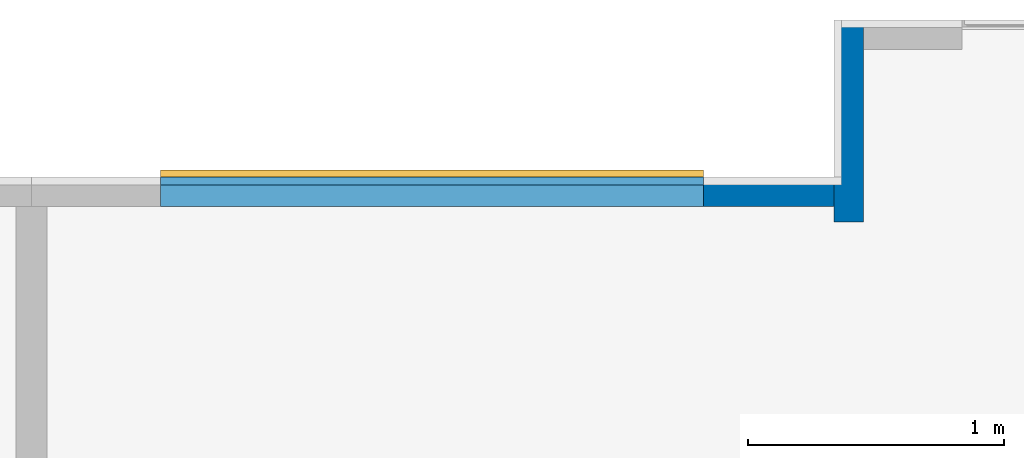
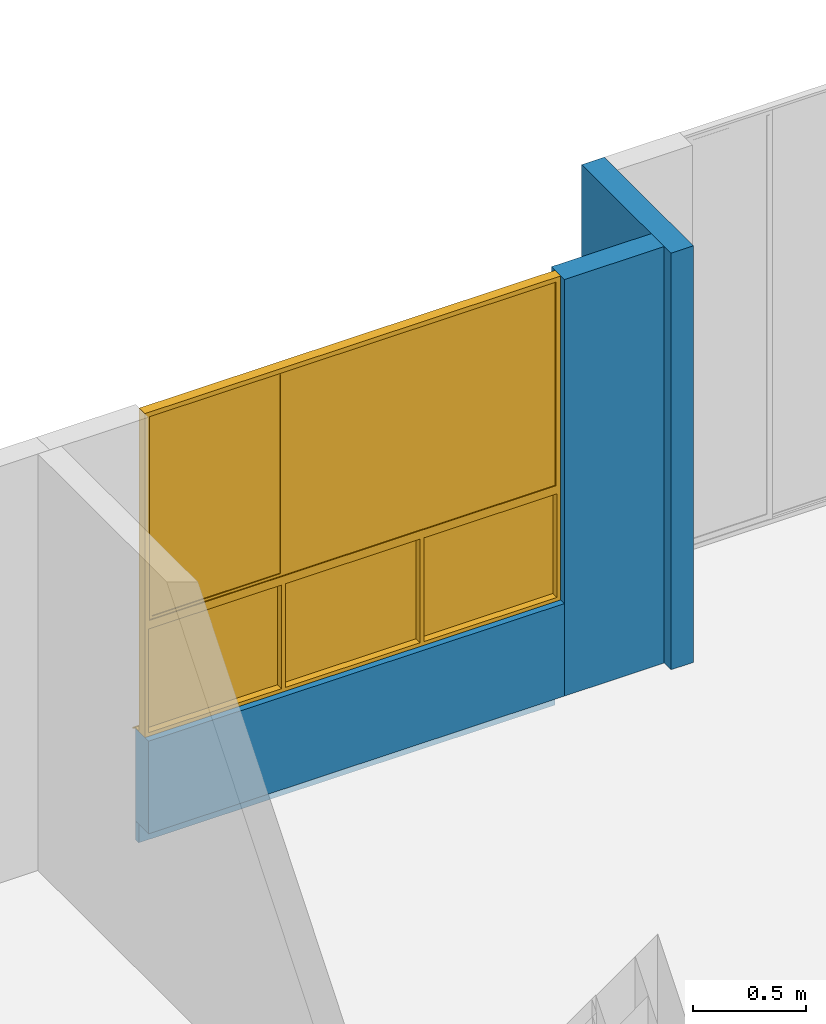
# One storey, part 23 of 47: 4 walls, 1 window, 1 opening.
"""IFC4 building model written with IfcOpenShell, lengths in metres."""

import ifcopenshell
import ifcopenshell.guid

model = None  # the IFC model being written
_history = None  # IfcOwnerHistory: only IFC2X3 demands one
_inside = {}  # id of a spatial element -> (the spatial element, [elements in it])
_under = {}  # id of a project, library or spatial element -> (it, [spatial elements below it])
_declared = {}  # id of a project -> (the project, [libraries it declares])
_typed = {}  # id of a type object -> (the type object, [elements of that type])
_made_of = {}  # id of a material, layer set ... -> (it, [elements and type objects made of it])


def new_model(schema):
    """Start an empty IFC model of exactly this schema.

    Asked for "IFC4X3", IfcOpenShell would pick the latest addendum, in which some entities
    have other attributes; the version numbers below select the first issue.
    IFC2X3 requires an IfcOwnerHistory on every rooted entity: one is made here for all.
    """
    global model, _history
    if schema == "IFC4X3":
        model = ifcopenshell.file(schema_version=(4, 3, 0, 0))
    else:
        model = ifcopenshell.file(schema=schema)
    _inside.clear()
    _under.clear()
    _declared.clear()
    _typed.clear()
    _made_of.clear()
    _history = None
    if model.schema == "IFC2X3":
        org = make("IfcOrganization", Name="unknown")
        user = make(
            "IfcPersonAndOrganization",
            ThePerson=make("IfcPerson", FamilyName="unknown"),
            TheOrganization=org,
        )
        app = make(
            "IfcApplication",
            ApplicationDeveloper=org,
            Version="unknown",
            ApplicationFullName="unknown",
            ApplicationIdentifier="unknown",
        )
        _history = make(
            "IfcOwnerHistory",
            OwningUser=user,
            OwningApplication=app,
            ChangeAction="ADDED",
            CreationDate=0,
        )
    return model


def make(cls, **values):
    """One entity of the class cls with the attributes given. An attribute that is None is left unset."""
    return model.create_entity(
        cls, **{name: value for name, value in values.items() if value is not None}
    )


def entity(cls, *values):
    """Any entity or typed value of the class cls, its attributes in the order of the schema. None: left unset."""
    e = model.create_entity(cls)
    for i, value in enumerate(values):
        if value is not None:
            e[i] = value
    return e


def rooted(cls, **values):
    """An entity with a GlobalId (a new one), such as an element, a storey or a relation."""
    return make(cls, GlobalId=ifcopenshell.guid.new(), OwnerHistory=_history, **values)


def si_unit(unit_type, name, prefix=None):
    """IfcSIUnit, for example si_unit("LENGTHUNIT", "METRE", prefix="MILLI")."""
    return make("IfcSIUnit", UnitType=unit_type, Prefix=prefix, Name=name)


def converted_unit(unit_type, name, factor, base, dimensions=None, offset=None):
    """IfcConversionBasedUnit, such as the inch: factor (a typed value) times the base unit."""
    return make(
        "IfcConversionBasedUnit"
        if offset is None
        else "IfcConversionBasedUnitWithOffset",
        ConversionOffset=offset,
        Dimensions=None
        if dimensions is None
        else entity("IfcDimensionalExponents", *dimensions),
        UnitType=unit_type,
        Name=name,
        ConversionFactor=make(
            "IfcMeasureWithUnit", ValueComponent=factor, UnitComponent=base
        ),
    )


def derived_unit(unit_type, elements):
    """IfcDerivedUnit: a product of units, each with its exponent."""
    return make(
        "IfcDerivedUnit",
        Elements=[
            make("IfcDerivedUnitElement", Unit=unit, Exponent=power)
            for unit, power in elements
        ],
        UnitType=unit_type,
    )


def assignment(units):
    """IfcUnitAssignment: the units of a project."""
    return None if units is None else make("IfcUnitAssignment", Units=units)


def point(xyz):
    """IfcCartesianPoint."""
    return None if xyz is None else make("IfcCartesianPoint", Coordinates=xyz)


def direction(xyz):
    """IfcDirection."""
    return None if xyz is None else make("IfcDirection", DirectionRatios=xyz)


def frame(location, z_axis=None, x_axis=None):
    """IfcAxis2Placement3D, a coordinate frame: its origin and axes. An axis left out is left unset."""
    return make(
        "IfcAxis2Placement3D",
        Location=point(location),
        Axis=direction(z_axis),
        RefDirection=direction(x_axis),
    )


def origin():
    """The frame at (0, 0, 0) with its axes left unset."""
    return frame((0.0, 0.0, 0.0))


def place(relative_to, where):
    """IfcLocalPlacement: puts the frame where relative to a parent placement (None: the world)."""
    return make(
        "IfcLocalPlacement", PlacementRelTo=relative_to, RelativePlacement=where
    )


def context(
    kind, dimensions, precision=None, world=None, true_north=None, identifier=None
):
    """IfcGeometricRepresentationContext, for example the 3D "Model" context."""
    return make(
        "IfcGeometricRepresentationContext",
        ContextIdentifier=identifier,
        ContextType=kind,
        CoordinateSpaceDimension=dimensions,
        Precision=precision,
        WorldCoordinateSystem=world,
        TrueNorth=true_north,
    )


def subcontext(parent, identifier, kind, view, scale=None):
    """IfcGeometricRepresentationSubContext, for example "Body" below "Model"."""
    return make(
        "IfcGeometricRepresentationSubContext",
        ContextIdentifier=identifier,
        ContextType=kind,
        ParentContext=parent,
        TargetScale=scale,
        TargetView=view,
    )


def project(units=None, contexts=None):
    """IfcProject with its units and contexts."""
    return rooted(
        "IfcProject",
        Name="project",
        RepresentationContexts=contexts,
        UnitsInContext=assignment(units),
    )


def spatial(cls, under=None, at=None, **own):
    """A site, building, storey or space (cls), placed at a placement, below another one or the project."""
    s = rooted(cls, ObjectPlacement=at, **own)
    if under is not None:
        _under.setdefault(under.id(), (under, []))[1].append(s)
    return s


def point_list(points):
    """IfcCartesianPointList2D or 3D."""
    cls = (
        "IfcCartesianPointList2D" if len(points[0]) == 2 else "IfcCartesianPointList3D"
    )
    return make(cls, CoordList=points)


def indexed_curve(points, segments=None, self_intersect=None):
    """IfcIndexedPolyCurve: lines and arcs through numbered points (the first is 1)."""
    return make(
        "IfcIndexedPolyCurve",
        Points=point_list(points),
        Segments=segments,
        SelfIntersect=self_intersect,
    )


def outline(outer, holes=None, kind="AREA"):
    """IfcArbitraryClosedProfileDef: a profile drawn as a closed curve; with holes, ...WithVoids."""
    if holes is None:
        return make("IfcArbitraryClosedProfileDef", ProfileType=kind, OuterCurve=outer)
    return make(
        "IfcArbitraryProfileDefWithVoids",
        ProfileType=kind,
        OuterCurve=outer,
        InnerCurves=holes,
    )


def extrude(swept, where, along, depth):
    """IfcExtrudedAreaSolid: the profile swept, set in the frame where, extruded along a direction by depth."""
    return make(
        "IfcExtrudedAreaSolid",
        SweptArea=swept,
        Position=where,
        ExtrudedDirection=direction(along),
        Depth=depth,
    )


def polygons(points, faces, closed=None, point_numbers=None):
    """IfcPolygonalFaceSet: a face is its outer loop, then its inner loops; points numbered from 1."""
    made = []
    for loops in faces:
        if len(loops) == 1:
            made.append(make("IfcIndexedPolygonalFace", CoordIndex=loops[0]))
        else:
            made.append(
                make(
                    "IfcIndexedPolygonalFaceWithVoids",
                    CoordIndex=loops[0],
                    InnerCoordIndices=loops[1:],
                )
            )
    return make(
        "IfcPolygonalFaceSet",
        Coordinates=point_list(points),
        Closed=closed,
        Faces=made,
        PnIndex=point_numbers,
    )


def shape(context_of_items, identifier, shape_type, items):
    """IfcShapeRepresentation: the items that make up one representation, for example the "Body"."""
    return make(
        "IfcShapeRepresentation",
        ContextOfItems=context_of_items,
        RepresentationIdentifier=identifier,
        RepresentationType=shape_type,
        Items=items,
    )


def source(mapping_origin, context_of_items, identifier, shape_type, items):
    """IfcRepresentationMap: a shape defined once, which mapped items show again and again."""
    return make(
        "IfcRepresentationMap",
        MappingOrigin=mapping_origin,
        MappedRepresentation=shape(context_of_items, identifier, shape_type, items),
    )


def transform(
    local_origin,
    x_axis=None,
    y_axis=None,
    z_axis=None,
    scale=None,
    scale2=None,
    scale3=None,
    uniform=True,
):
    """IfcCartesianTransformationOperator3D, or its non-uniform kind. x_axis, y_axis, z_axis: its Axis1, 2, 3."""
    if uniform:
        return make(
            "IfcCartesianTransformationOperator3D",
            Axis1=direction(x_axis),
            Axis2=direction(y_axis),
            LocalOrigin=point(local_origin),
            Scale=scale,
            Axis3=direction(z_axis),
        )
    return make(
        "IfcCartesianTransformationOperator3DnonUniform",
        Axis1=direction(x_axis),
        Axis2=direction(y_axis),
        LocalOrigin=point(local_origin),
        Scale=scale,
        Axis3=direction(z_axis),
        Scale2=scale2,
        Scale3=scale3,
    )


def mapped(mapping_source, mapping_target):
    """IfcMappedItem: shows the shape of a source again, moved by a transform."""
    return make(
        "IfcMappedItem", MappingSource=mapping_source, MappingTarget=mapping_target
    )


def material(Name=None, Category=None):
    """IfcMaterial."""
    return make("IfcMaterial", Name=Name, Category=Category)


def constituent(of_material, Name=None, Category=None, fraction=None):
    """IfcMaterialConstituent: one of the materials an element consists of."""
    return make(
        "IfcMaterialConstituent",
        Name=Name,
        Material=of_material,
        Fraction=fraction,
        Category=Category,
    )


def constituent_set(constituents=None, Name=None):
    """IfcMaterialConstituentSet."""
    return make(
        "IfcMaterialConstituentSet", Name=Name, MaterialConstituents=constituents
    )


def made_of(thing, what):
    """Note that an element or type object is made of a material, layer set ...; save() writes the relation."""
    if what is not None:
        _made_of.setdefault(what.id(), (what, []))[1].append(thing)
    return thing


def type_object(cls, material=None, **own):
    """A type object (cls), such as IfcWallType, which elements share."""
    return made_of(rooted(cls, **own), material)


def type_shapes(of_type, sources):
    """Give a type object the sources (RepresentationMaps) that its elements show as mapped items."""
    of_type.RepresentationMaps = sources


def element(
    cls,
    number,
    at=None,
    inside=None,
    cuts=None,
    type_object=None,
    material=None,
    context=None,
    identifier="Body",
    shape_type=None,
    held_by="IfcProductDefinitionShape",
    body=None,
    shapes=None,
    **own,
):
    """One element of the class cls, such as IfcWall. Its Tag is "e" and its number.

    at: its placement. inside: the storey or other place that contains it. cuts: it is an
    opening in that element (IfcRelVoidsElement). A single representation is given by context,
    identifier, shape_type and body (its items); several are given by shapes. held_by: the class
    of the entity that holds the representations. save() writes the other relations.
    """
    e = rooted(cls, Tag="e%d" % number, ObjectPlacement=at, **own)
    if body is not None:
        shapes = [shape(context, identifier, shape_type, body)]
    if shapes is not None:
        e.Representation = make(held_by, Representations=shapes)
    if inside is not None:
        _inside.setdefault(inside.id(), (inside, []))[1].append(e)
    if cuts is not None:
        rooted(
            "IfcRelVoidsElement", RelatingBuildingElement=cuts, RelatedOpeningElement=e
        )
    if type_object is not None:
        _typed.setdefault(type_object.id(), (type_object, []))[1].append(e)
    return made_of(e, material)


def fill(opening, filler):
    """IfcRelFillsElement: the door or window that sits in an opening."""
    return rooted(
        "IfcRelFillsElement",
        RelatingOpeningElement=opening,
        RelatedBuildingElement=filler,
    )


def aggregate(whole, parts):
    """IfcRelAggregates: a whole, such as a stair, and the parts it consists of."""
    return rooted("IfcRelAggregates", RelatingObject=whole, RelatedObjects=parts)


def save(model, path):
    """Write the relations noted so far, then the file.

    IfcRelAggregates (storeys below a building ...), IfcRelContainedInSpatialStructure (elements
    in a storey), IfcRelDefinesByType, IfcRelAssociatesMaterial and IfcRelDeclares: one each for
    every whole, place, type object, material and project.
    """
    for whole, parts in _under.values():
        aggregate(whole, parts)
    for where, things in _inside.values():
        rooted(
            "IfcRelContainedInSpatialStructure",
            RelatedElements=things,
            RelatingStructure=where,
        )
    for kind, things in _typed.values():
        rooted("IfcRelDefinesByType", RelatedObjects=things, RelatingType=kind)
    for what, things in _made_of.values():
        rooted("IfcRelAssociatesMaterial", RelatedObjects=things, RelatingMaterial=what)
    for by, libraries in _declared.values():
        rooted("IfcRelDeclares", RelatingContext=by, RelatedDefinitions=libraries)
    model.write(path)


model = new_model("IFC4")

# Units and contexts
model_context = context("Model", 3, precision=1e-05, world=origin(), true_north=direction((6.123031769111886e-17, 1.0)))
body_context = subcontext(model_context, "Body", "Model", "MODEL_VIEW")
ifc_project = project(units=[si_unit("LENGTHUNIT", "METRE"), si_unit("AREAUNIT", "SQUARE_METRE"), si_unit("VOLUMEUNIT", "CUBIC_METRE"), converted_unit("PLANEANGLEUNIT", "DEGREE", entity("IfcRatioMeasure", 0.017453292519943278), si_unit("PLANEANGLEUNIT", "RADIAN"), dimensions=[0, 0, 0, 0, 0, 0, 0]), si_unit("MASSUNIT", "GRAM", prefix="KILO"), derived_unit("MASSDENSITYUNIT", [(si_unit("MASSUNIT", "GRAM", prefix="KILO"), 1), (si_unit("LENGTHUNIT", "METRE"), -3)]), derived_unit("IONCONCENTRATIONUNIT", [(si_unit("MASSUNIT", "GRAM", prefix="KILO"), 1), (si_unit("LENGTHUNIT", "METRE"), -3)]), derived_unit("MOMENTOFINERTIAUNIT", [(si_unit("LENGTHUNIT", "METRE"), 4)]), si_unit("TIMEUNIT", "SECOND"), si_unit("FREQUENCYUNIT", "HERTZ"), si_unit("THERMODYNAMICTEMPERATUREUNIT", "DEGREE_CELSIUS"), derived_unit("THERMALTRANSMITTANCEUNIT", [(si_unit("MASSUNIT", "GRAM", prefix="KILO"), 1), (si_unit("THERMODYNAMICTEMPERATUREUNIT", "KELVIN"), -1), (si_unit("TIMEUNIT", "SECOND"), -3)]), derived_unit("THERMALCONDUCTANCEUNIT", [(si_unit("MASSUNIT", "GRAM", prefix="KILO"), 1), (si_unit("THERMODYNAMICTEMPERATUREUNIT", "KELVIN"), -1), (si_unit("TIMEUNIT", "SECOND"), -3), (si_unit("LENGTHUNIT", "METRE"), 1)]), derived_unit("VOLUMETRICFLOWRATEUNIT", [(si_unit("LENGTHUNIT", "METRE"), 3), (si_unit("TIMEUNIT", "SECOND"), -1)]), derived_unit("MASSFLOWRATEUNIT", [(si_unit("MASSUNIT", "GRAM", prefix="KILO"), 1), (si_unit("TIMEUNIT", "SECOND"), -1)]), derived_unit("ROTATIONALFREQUENCYUNIT", [(si_unit("TIMEUNIT", "SECOND"), -1)]), si_unit("ELECTRICCURRENTUNIT", "AMPERE"), si_unit("ELECTRICVOLTAGEUNIT", "VOLT"), si_unit("POWERUNIT", "WATT"), si_unit("FORCEUNIT", "NEWTON", prefix="KILO"), si_unit("ILLUMINANCEUNIT", "LUX"), si_unit("LUMINOUSFLUXUNIT", "LUMEN"), si_unit("LUMINOUSINTENSITYUNIT", "CANDELA"), derived_unit("USERDEFINED", [(si_unit("MASSUNIT", "GRAM", prefix="KILO"), -1), (si_unit("LENGTHUNIT", "METRE"), -2), (si_unit("TIMEUNIT", "SECOND"), 3), (si_unit("LUMINOUSFLUXUNIT", "LUMEN"), 1)]), derived_unit("USERDEFINED", [(si_unit("MASSUNIT", "GRAM", prefix="KILO"), 1), (si_unit("TIMEUNIT", "SECOND"), -3), (si_unit("LENGTHUNIT", "METRE"), 3), (si_unit("ELECTRICCURRENTUNIT", "AMPERE"), -2)]), derived_unit("SOUNDPOWERUNIT", [(si_unit("MASSUNIT", "GRAM", prefix="KILO"), 1), (si_unit("TIMEUNIT", "SECOND"), -3), (si_unit("LENGTHUNIT", "METRE"), 2)]), derived_unit("SOUNDPRESSUREUNIT", [(si_unit("MASSUNIT", "GRAM", prefix="KILO"), 1), (si_unit("LENGTHUNIT", "METRE"), -1), (si_unit("TIMEUNIT", "SECOND"), -2)]), derived_unit("LINEARVELOCITYUNIT", [(si_unit("LENGTHUNIT", "METRE"), 1), (si_unit("TIMEUNIT", "SECOND"), -1)]), si_unit("PRESSUREUNIT", "PASCAL"), derived_unit("USERDEFINED", [(si_unit("MASSUNIT", "GRAM", prefix="KILO"), 1), (si_unit("LENGTHUNIT", "METRE"), -2), (si_unit("TIMEUNIT", "SECOND"), -2)]), derived_unit("LINEARFORCEUNIT", [(si_unit("MASSUNIT", "GRAM", prefix="KILO"), 1), (si_unit("TIMEUNIT", "SECOND"), -2)]), derived_unit("PLANARFORCEUNIT", [(si_unit("MASSUNIT", "GRAM", prefix="KILO"), 1), (si_unit("LENGTHUNIT", "METRE"), -1), (si_unit("TIMEUNIT", "SECOND"), -2)]), derived_unit("SPECIFICHEATCAPACITYUNIT", [(si_unit("THERMODYNAMICTEMPERATUREUNIT", "KELVIN"), -1), (si_unit("LENGTHUNIT", "METRE"), 2), (si_unit("TIMEUNIT", "SECOND"), -2)]), derived_unit("HEATINGVALUEUNIT", [(si_unit("LENGTHUNIT", "METRE"), 2), (si_unit("TIMEUNIT", "SECOND"), -2)]), derived_unit("VAPORPERMEABILITYUNIT", [(si_unit("LENGTHUNIT", "METRE"), -1), (si_unit("TIMEUNIT", "SECOND"), 1)]), derived_unit("DYNAMICVISCOSITYUNIT", [(si_unit("MASSUNIT", "GRAM", prefix="KILO"), 1), (si_unit("TIMEUNIT", "SECOND"), -1), (si_unit("LENGTHUNIT", "METRE"), -1)]), derived_unit("THERMALEXPANSIONCOEFFICIENTUNIT", [(si_unit("THERMODYNAMICTEMPERATUREUNIT", "KELVIN"), -1)]), derived_unit("MODULUSOFELASTICITYUNIT", [(si_unit("MASSUNIT", "GRAM", prefix="KILO"), 1), (si_unit("LENGTHUNIT", "METRE"), -1), (si_unit("TIMEUNIT", "SECOND"), -2)]), derived_unit("ISOTHERMALMOISTURECAPACITYUNIT", [(si_unit("LENGTHUNIT", "METRE"), 3), (si_unit("MASSUNIT", "GRAM", prefix="KILO"), -1)]), derived_unit("MOISTUREDIFFUSIVITYUNIT", [(si_unit("TIMEUNIT", "SECOND"), -1), (si_unit("LENGTHUNIT", "METRE"), 2)])], contexts=[model_context])

# Site, building, storey
site_placement = place(None, origin())
site = spatial("IfcSite", under=ifc_project, at=site_placement, Name="Default", CompositionType="ELEMENT")
building_placement = place(site_placement, origin())
building = spatial("IfcBuilding", under=site, at=building_placement, CompositionType="ELEMENT")
storey_placement = place(building_placement, frame((0.0, 0.0, 11.750000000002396)))
storey = spatial("IfcBuildingStorey", under=building, at=storey_placement, Name="Nivel 6", CompositionType="ELEMENT", Elevation=11.750000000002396)

# Wall
ifc_material_1 = material(Name="Ladrillo claro (Aire)", Category="Materials")
wall_type_1 = type_object("IfcWallType", Name="Basic Wall:B2010 - 0.115m - Muro exterior en mampostería - Ladrillo", PredefinedType="STANDARD")
wall_1_placement = place(storey_placement, frame((12.520000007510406, 0.019999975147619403, 0.0), z_axis=(0.0, 0.0, 1.0), x_axis=(0.0, -1.0, 0.0)))
element("IfcWall", 1, at=wall_1_placement, inside=storey, type_object=wall_type_1, material=ifc_material_1, Name="Basic Wall:B2010 - 0.115m - Muro exterior en mampostería - Ladrillo", ObjectType="Basic Wall:B2010 - 0.115m - Muro exterior en mampostería - Ladrillo", PredefinedType="NOTDEFINED", context=body_context, shape_type="SweptSolid", body=[
    extrude(outline(indexed_curve([(0.7899180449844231, 0.057500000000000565), (1.1341863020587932e-18, 0.057499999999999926), (-1.1341863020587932e-18, -0.057499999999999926), (0.7899180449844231, -0.05749999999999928), (0.7899180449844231, 0.057500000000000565)], self_intersect=False)), origin(), (0.0, 0.0, 1.0), 2.2500000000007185),
])

# Wall, opening, window
wall_2_placement = place(storey_placement, frame((11.952500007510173, -0.6525000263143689, 0.0), z_axis=(0.0, 0.0, 1.0), x_axis=(-1.0, 0.0, 0.0)))
wall_2 = element("IfcWall", 2, at=wall_2_placement, inside=storey, type_object=wall_type_1, material=ifc_material_1, Name="Basic Wall:B2010 - 0.115m - Muro exterior en mampostería - Ladrillo", ObjectType="Basic Wall:B2010 - 0.115m - Muro exterior en mampostería - Ladrillo", PredefinedType="NOTDEFINED", context=body_context, shape_type="Tessellation", body=[
    polygons([(8.702369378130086e-16, -0.057499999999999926, -2.1657342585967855e-15), (2.1249999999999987, -0.05749999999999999, -2.1657342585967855e-15), (2.1249999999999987, -0.05749999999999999, 0.5000000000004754), (8.702369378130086e-16, -0.057499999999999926, 0.5000000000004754), (2.1249999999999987, 0.05750000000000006, -2.1657342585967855e-15), (1.1112318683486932e-15, 0.05750000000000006, -2.1657342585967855e-15), (1.1112318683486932e-15, 0.05750000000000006, 0.5000000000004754), (2.1249999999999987, 0.05750000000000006, 0.5000000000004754)], [[[1, 2, 3, 4]], [[5, 6, 7, 8]], [[2, 1, 6, 5]], [[2, 5, 8, 3]], [[6, 1, 4, 7]], [[4, 3, 8, 7]]], closed=True),
])
opening_placement = place(wall_2_placement, frame((2.125000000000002, 0.057499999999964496, 0.5000000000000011)))
opening = element("IfcOpeningElement", 3, at=opening_placement, cuts=wall_2, Name="B2020 - 6c Ventana corrediza - Aluminio + Vidrio:B2020 -2.13m x 1.750m - Ventana corrediza 2C - Aluminio + Vidrio:1", PredefinedType="OPENING", context=body_context, shape_type="SweptSolid", body=[
    extrude(outline(indexed_curve([(0.0, -6.998217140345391e-33), (1.7500000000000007, -6.998217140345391e-33), (1.7499999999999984, 2.125), (0.0, 2.125), (0.0, -6.998217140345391e-33)], self_intersect=False)), frame((0.0, 0.0, 0.0), z_axis=(0.0, -1.0, 0.0), x_axis=(0.0, 0.0, 1.0)), (0.0, 0.0, 1.0), 0.115),
])
ifc_material_2 = material(Name="Aluminio", Category="Materials")
ifc_constituent_1 = constituent(ifc_material_2, Name="Aluminio", Category="Materials")
ifc_material_3 = material(Name="Vidrio", Category="Materials")
ifc_constituent_2 = constituent(ifc_material_3, Name="Vidrio", Category="Materials")
ifc_material_4 = material(Name="Alfajía en aluminio", Category="Materials")
ifc_constituent_3 = constituent(ifc_material_4, Name="Alfajía en aluminio", Category="Materials")
ifc_constituent_set_1 = constituent_set(constituents=[ifc_constituent_1, ifc_constituent_2, ifc_constituent_3])
ifc_constituent_4 = constituent(ifc_material_2, Name="Aluminio", Category="Materials")
ifc_constituent_5 = constituent(ifc_material_3, Name="Vidrio", Category="Materials")
ifc_constituent_6 = constituent(ifc_material_4, Name="Alfajía en aluminio", Category="Materials")
ifc_constituent_set_2 = constituent_set(constituents=[ifc_constituent_4, ifc_constituent_5, ifc_constituent_6])
window_type = type_object("IfcWindowType", Name="B2020 - 6c Ventana corrediza - Aluminio + Vidrio:B2020 -2.13m x 1.750m - Ventana corrediza 2C - Aluminio + Vidrio", PartitioningType="NOTDEFINED", PredefinedType="WINDOW", material=ifc_constituent_set_2)
shared_shape = source(origin(), body_context, "Body", "Tessellation", [
    polygons([(0.024999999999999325, 0.03749999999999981, 1.7249999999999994), (0.025000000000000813, 0.032499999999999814, 1.7249999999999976), (0.025000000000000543, 0.032499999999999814, 0.6249999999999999), (0.024999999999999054, 0.03749999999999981, 0.6249999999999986), (2.1249999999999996, 0.03249999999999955, 0.5999999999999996), (2.1249999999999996, 0.03249999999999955, 1.749999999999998), (5.414335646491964e-16, 0.032499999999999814, 1.749999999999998), (2.707167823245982e-16, 0.032499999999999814, 0.5999999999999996), (2.099999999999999, 0.03249999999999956, 0.6249999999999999), (2.099999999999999, 0.032499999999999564, 1.7249999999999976), (2.1000000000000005, 0.03749999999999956, 0.6249999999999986), (2.1000000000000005, 0.03749999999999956, 1.7249999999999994), (2.1050000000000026, 0.03749999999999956, 0.6199999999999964), (0.01999999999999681, 0.03749999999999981, 0.6199999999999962), (0.01999999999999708, 0.03749999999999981, 1.7300000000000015), (2.1050000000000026, 0.03749999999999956, 1.7300000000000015), (0.01999999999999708, 0.05499999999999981, 1.7300000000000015), (0.01999999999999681, 0.05499999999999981, 0.6199999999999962), (2.1050000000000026, 0.05499999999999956, 0.6199999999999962), (2.1050000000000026, 0.05499999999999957, 1.7300000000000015), (2.099999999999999, 0.05499999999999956, 0.6249999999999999), (0.025000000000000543, 0.05499999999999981, 0.6249999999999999), (0.025000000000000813, 0.05499999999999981, 1.7249999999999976), (2.099999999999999, 0.05499999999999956, 1.7249999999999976), (0.025000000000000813, 0.05999999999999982, 1.7249999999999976), (0.025000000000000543, 0.05999999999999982, 0.6249999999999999), (2.099999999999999, 0.059999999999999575, 0.6249999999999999), (2.099999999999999, 0.059999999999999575, 1.7249999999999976), (2.119999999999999, 0.05999999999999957, 0.6049999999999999), (0.005000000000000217, 0.05999999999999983, 0.6049999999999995), (0.0050000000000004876, 0.05999999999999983, 1.744999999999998), (2.119999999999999, 0.05999999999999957, 1.744999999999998), (0.0050000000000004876, 0.07749999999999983, 1.744999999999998), (0.005000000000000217, 0.07749999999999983, 0.6049999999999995), (2.119999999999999, 0.07749999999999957, 0.6049999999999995), (2.119999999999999, 0.07749999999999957, 1.744999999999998), (2.099999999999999, 0.07749999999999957, 0.6249999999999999), (0.025000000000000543, 0.07749999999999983, 0.6249999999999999), (0.025000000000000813, 0.07749999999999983, 1.7249999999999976), (2.099999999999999, 0.07749999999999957, 1.7249999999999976), (0.025000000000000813, 0.08249999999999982, 1.7249999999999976), (0.025000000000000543, 0.08249999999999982, 0.6249999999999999), (2.099999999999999, 0.08249999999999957, 0.6249999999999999), (2.099999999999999, 0.08249999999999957, 1.7249999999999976), (2.1249999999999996, 0.08249999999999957, 0.5999999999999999), (2.707167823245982e-16, 0.08249999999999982, 0.5999999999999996), (5.414335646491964e-16, 0.08249999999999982, 1.749999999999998), (2.1249999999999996, 0.08249999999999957, 1.749999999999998)], [[[1, 2, 3, 4]], [[5, 6, 7, 8], [9, 3, 2, 10]], [[4, 3, 9, 11]], [[13, 14, 15, 16], [11, 12, 1, 4]], [[17, 15, 14, 18]], [[18, 14, 13, 19]], [[19, 20, 17, 18], [21, 22, 23, 24]], [[25, 23, 22, 26]], [[26, 22, 21, 27]], [[29, 30, 31, 32], [27, 28, 25, 26]], [[33, 31, 30, 34]], [[34, 30, 29, 35]], [[35, 36, 33, 34], [37, 38, 39, 40]], [[41, 39, 38, 42]], [[42, 38, 37, 43]], [[45, 46, 47, 48], [43, 44, 41, 42]], [[7, 47, 46, 8]], [[8, 46, 45, 5]], [[11, 9, 10, 12]], [[19, 13, 16, 20]], [[27, 21, 24, 28]], [[35, 29, 32, 36]], [[43, 37, 40, 44]], [[5, 45, 48, 6]], [[12, 10, 2, 1]], [[20, 16, 15, 17]], [[28, 24, 23, 25]], [[36, 32, 31, 33]], [[44, 40, 39, 41]], [[6, 48, 47, 7]]], closed=True),
    polygons([(1.4266666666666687, 0.08249999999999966, 0.6249999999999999), (1.4266666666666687, 0.05999999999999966, 0.6249999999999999), (1.406666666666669, 0.05999999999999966, 0.6249999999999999), (1.406666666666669, 0.08249999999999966, 0.6249999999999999), (1.4266666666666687, 0.08249999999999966, 1.7249999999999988), (1.4266666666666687, 0.05999999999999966, 1.7249999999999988), (1.406666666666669, 0.05999999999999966, 1.7249999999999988), (1.406666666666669, 0.08249999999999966, 1.7249999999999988)], [[[1, 2, 3, 4]], [[5, 6, 2, 1]], [[6, 7, 3, 2]], [[7, 8, 4, 3]], [[8, 5, 1, 4]], [[5, 8, 7, 6]]], closed=True),
    polygons([(0.7058333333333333, 0.06674999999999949, 1.7299999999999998), (0.7058333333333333, 0.06674999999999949, 0.6174999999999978), (2.099999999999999, 0.06674999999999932, 0.6174999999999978), (2.099999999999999, 0.06674999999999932, 1.7299999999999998), (0.7058333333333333, 0.0707499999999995, 1.7299999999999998), (0.7058333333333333, 0.0707499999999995, 0.6174999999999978), (2.099999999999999, 0.07074999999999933, 0.6174999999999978), (2.099999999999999, 0.07074999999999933, 1.7299999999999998)], [[[1, 2, 3, 4]], [[2, 1, 5, 6]], [[3, 2, 6, 7]], [[4, 3, 7, 8]], [[5, 8, 7, 6]], [[1, 4, 8, 5]]], closed=True),
    polygons([(0.7058333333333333, 0.07074999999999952, 0.6225000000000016), (0.7058333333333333, 0.06674999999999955, 0.6225000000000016), (2.095000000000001, 0.06674999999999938, 0.6225000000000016), (2.095000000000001, 0.07074999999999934, 0.6225000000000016), (2.0950000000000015, 0.06674999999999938, 1.730000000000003), (2.0950000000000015, 0.07074999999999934, 1.730000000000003), (0.7058333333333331, 0.06674999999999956, 1.730000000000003), (2.0800000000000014, 0.06674999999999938, 1.7150000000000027), (0.7208333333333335, 0.06674999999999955, 1.7150000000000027), (0.7208333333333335, 0.06674999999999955, 0.637500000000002), (2.080000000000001, 0.06674999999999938, 0.637500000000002), (2.080000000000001, 0.07074999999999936, 0.6375000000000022), (0.7208333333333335, 0.07074999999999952, 0.637500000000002), (0.7208333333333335, 0.07074999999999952, 1.7150000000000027), (2.0800000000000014, 0.07074999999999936, 1.7150000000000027), (0.7058333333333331, 0.07074999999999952, 1.730000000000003), (0.7208333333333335, 0.07549999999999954, 0.637500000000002), (2.080000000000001, 0.07549999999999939, 0.637500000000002), (2.0800000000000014, 0.07549999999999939, 1.7150000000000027), (2.1000000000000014, 0.07549999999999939, 0.6175000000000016), (0.7008333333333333, 0.07549999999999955, 0.6175000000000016), (0.7008333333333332, 0.07549999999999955, 1.735000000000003), (2.1000000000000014, 0.07549999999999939, 1.735000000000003), (0.7208333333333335, 0.07549999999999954, 1.7150000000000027), (0.7008333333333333, 0.06199999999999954, 0.6175000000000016), (2.1000000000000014, 0.061999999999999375, 0.6175000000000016), (2.1000000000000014, 0.061999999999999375, 1.735000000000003), (2.080000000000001, 0.06199999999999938, 0.6375000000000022), (0.7208333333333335, 0.06199999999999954, 0.637500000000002), (0.7208333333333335, 0.06199999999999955, 1.7150000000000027), (2.0800000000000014, 0.06199999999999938, 1.7150000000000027), (0.7008333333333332, 0.06199999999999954, 1.735000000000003)], [[[1, 2, 3, 4]], [[4, 3, 5, 6]], [[3, 2, 7, 5], [8, 9, 10, 11]], [[6, 16, 1, 4], [12, 13, 14, 15]], [[17, 13, 12, 18]], [[18, 12, 15, 19]], [[20, 21, 22, 23], [19, 24, 17, 18]], [[25, 21, 20, 26]], [[26, 20, 23, 27]], [[27, 32, 25, 26], [28, 29, 30, 31]], [[10, 29, 28, 11]], [[11, 28, 31, 8]], [[16, 7, 2, 1]], [[24, 14, 13, 17]], [[32, 22, 21, 25]], [[9, 30, 29, 10]], [[6, 5, 7, 16]], [[19, 15, 14, 24]], [[27, 23, 22, 32]], [[8, 31, 30, 9]]], closed=True),
    polygons([(0.025000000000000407, 0.04424999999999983, 1.7299999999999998), (0.025000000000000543, 0.04424999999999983, 0.6174999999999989), (0.713333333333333, 0.04424999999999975, 0.6174999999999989), (0.7133333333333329, 0.04424999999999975, 1.7299999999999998), (0.025000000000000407, 0.04824999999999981, 1.7299999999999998), (0.025000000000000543, 0.04824999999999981, 0.6174999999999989), (0.713333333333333, 0.048249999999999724, 0.6174999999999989), (0.7133333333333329, 0.048249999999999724, 1.7299999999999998)], [[[1, 2, 3, 4]], [[2, 1, 5, 6]], [[3, 2, 6, 7]], [[4, 3, 7, 8]], [[5, 8, 7, 6]], [[1, 4, 8, 5]]], closed=True),
    polygons([(0.025000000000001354, 0.04824999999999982, 0.6224999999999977), (0.025000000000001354, 0.04424999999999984, 0.6224999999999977), (0.713333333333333, 0.044249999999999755, 0.6224999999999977), (0.713333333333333, 0.04824999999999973, 0.6224999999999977), (0.713333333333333, 0.044249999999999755, 1.729999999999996), (0.713333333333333, 0.04824999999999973, 1.729999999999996), (0.025000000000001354, 0.04424999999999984, 1.729999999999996), (0.6983333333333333, 0.044249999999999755, 1.714999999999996), (0.040000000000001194, 0.04424999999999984, 1.714999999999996), (0.040000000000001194, 0.04424999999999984, 0.6374999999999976), (0.6983333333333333, 0.044249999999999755, 0.6374999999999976), (0.6983333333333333, 0.04824999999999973, 0.6374999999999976), (0.040000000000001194, 0.04824999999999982, 0.6374999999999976), (0.040000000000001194, 0.04824999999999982, 1.714999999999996), (0.6983333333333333, 0.04824999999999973, 1.714999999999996), (0.025000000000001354, 0.04824999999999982, 1.729999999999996), (0.040000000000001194, 0.052999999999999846, 0.6374999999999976), (0.6983333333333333, 0.05299999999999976, 0.6374999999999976), (0.6983333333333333, 0.05299999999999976, 1.714999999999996), (0.7183333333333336, 0.052999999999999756, 0.6174999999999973), (0.020000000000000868, 0.052999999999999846, 0.6174999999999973), (0.020000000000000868, 0.052999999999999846, 1.7349999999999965), (0.7183333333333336, 0.05299999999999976, 1.7349999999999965), (0.040000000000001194, 0.052999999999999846, 1.714999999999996), (0.020000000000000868, 0.03949999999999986, 0.6174999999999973), (0.7183333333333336, 0.03949999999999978, 0.6174999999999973), (0.7183333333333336, 0.03949999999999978, 1.7349999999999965), (0.6983333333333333, 0.039499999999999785, 0.6374999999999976), (0.040000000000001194, 0.039499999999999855, 0.6374999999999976), (0.040000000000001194, 0.039499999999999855, 1.714999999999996), (0.6983333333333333, 0.03949999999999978, 1.714999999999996), (0.020000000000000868, 0.03949999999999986, 1.7349999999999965)], [[[1, 2, 3, 4]], [[4, 3, 5, 6]], [[3, 2, 7, 5], [8, 9, 10, 11]], [[6, 16, 1, 4], [12, 13, 14, 15]], [[17, 13, 12, 18]], [[18, 12, 15, 19]], [[20, 21, 22, 23], [19, 24, 17, 18]], [[25, 21, 20, 26]], [[26, 20, 23, 27]], [[27, 32, 25, 26], [28, 29, 30, 31]], [[10, 29, 28, 11]], [[11, 28, 31, 8]], [[16, 7, 2, 1]], [[24, 14, 13, 17]], [[32, 22, 21, 25]], [[9, 30, 29, 10]], [[6, 5, 7, 16]], [[19, 15, 14, 24]], [[27, 23, 22, 32]], [[8, 31, 30, 9]]], closed=True),
    polygons([(2.1049999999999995, 0.04424999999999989, 1.7299999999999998), (0.025000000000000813, 0.04424999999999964, 1.7299999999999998), (0.025000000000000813, 0.04424999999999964, 0.6174999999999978), (2.1049999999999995, 0.04424999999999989, 0.6174999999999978), (0.025000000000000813, 0.04824999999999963, 1.7299999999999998), (0.025000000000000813, 0.04824999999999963, 0.6174999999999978), (2.1049999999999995, 0.04824999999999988, 0.6174999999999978), (2.1049999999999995, 0.04824999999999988, 1.7299999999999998)], [[[1, 2, 3, 4]], [[3, 2, 5, 6]], [[4, 3, 6, 7]], [[1, 4, 7, 8]], [[8, 7, 6, 5]], [[2, 1, 8, 5]]], closed=True),
    polygons([(0.020000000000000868, 0.06674999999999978, 1.7299999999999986), (0.020000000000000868, 0.06674999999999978, 0.6174999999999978), (2.1049999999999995, 0.06674999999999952, 0.6174999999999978), (2.104999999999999, 0.06674999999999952, 1.7299999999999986), (0.020000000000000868, 0.07074999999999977, 1.7299999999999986), (0.020000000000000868, 0.07074999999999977, 0.6174999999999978), (2.1049999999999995, 0.07074999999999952, 0.6174999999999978), (2.104999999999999, 0.07074999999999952, 1.7299999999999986)], [[[1, 2, 3, 4]], [[2, 1, 5, 6]], [[3, 2, 6, 7]], [[4, 3, 7, 8]], [[5, 8, 7, 6]], [[1, 4, 8, 5]]], closed=True),
    polygons([(0.019999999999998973, 0.06813901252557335, 0.5800000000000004), (0.01999999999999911, 0.06813901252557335, 0.019999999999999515), (2.1050000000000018, 0.06813901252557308, 0.019999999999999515), (2.1050000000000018, 0.06813901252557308, 0.5800000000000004), (0.019999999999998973, 0.07213901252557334, 0.5800000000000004), (2.1050000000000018, 0.07213901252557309, 0.5800000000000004), (2.1050000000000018, 0.07213901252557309, 0.019999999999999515), (0.01999999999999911, 0.07213901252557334, 0.019999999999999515)], [[[1, 2, 3, 4]], [[5, 6, 7, 8]], [[2, 1, 5, 8]], [[3, 2, 8, 7]], [[4, 3, 7, 6]], [[1, 4, 6, 5]]], closed=True),
    polygons([(1.4266666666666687, 0.08250000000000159, 0.5799999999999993), (1.406666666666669, 0.08250000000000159, 0.5799999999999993), (1.406666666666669, 0.03250000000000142, 0.5799999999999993), (1.4266666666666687, 0.03250000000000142, 0.5799999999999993), (1.4266666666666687, 0.08250000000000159, 0.019999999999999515), (1.4266666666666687, 0.03250000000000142, 0.019999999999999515), (1.406666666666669, 0.03250000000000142, 0.019999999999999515), (1.406666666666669, 0.08250000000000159, 0.019999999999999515)], [[[1, 2, 3, 4]], [[5, 6, 7, 8]], [[2, 1, 5, 8]], [[3, 2, 8, 7]], [[4, 3, 7, 6]], [[1, 4, 6, 5]]], closed=True),
    polygons([(4.060751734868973e-16, 0.08249999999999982, 4.060751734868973e-16), (2.707167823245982e-16, 0.08249999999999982, 0.5999999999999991), (2.1249999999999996, 0.08249999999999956, 0.5999999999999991), (2.125, 0.08249999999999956, 2.707167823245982e-16), (0.718333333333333, 0.08250000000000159, 0.5799999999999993), (0.718333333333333, 0.08250000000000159, 0.01999999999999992), (2.105, 0.0825000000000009, 0.020000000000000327), (2.105, 0.0825000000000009, 0.5799999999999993), (0.6983333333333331, 0.08250000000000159, 0.01999999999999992), (0.6983333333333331, 0.08250000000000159, 0.5799999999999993), (0.020000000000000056, 0.08250000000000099, 0.5799999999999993), (0.020000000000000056, 0.08250000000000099, 0.020000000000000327), (0.6983333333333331, 0.03250000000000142, 0.01999999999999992), (0.6983333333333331, 0.03250000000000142, 0.5799999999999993), (0.02000000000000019, 0.032499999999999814, 0.020000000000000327), (0.020000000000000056, 0.032499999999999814, 0.5799999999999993), (4.060751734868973e-16, 0.03250000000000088, 0.5999999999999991), (4.060751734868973e-16, 0.03250000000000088, 4.060751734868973e-16), (2.125, 0.0325000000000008, 4.060751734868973e-16), (2.125, 0.0325000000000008, 0.5999999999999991), (0.7183333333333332, 0.03250000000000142, 0.01999999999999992), (0.718333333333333, 0.03250000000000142, 0.5799999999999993), (2.105, 0.03249999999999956, 0.5799999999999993), (2.105, 0.03249999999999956, 0.020000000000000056)], [[[1, 2, 3, 4], [5, 6, 7, 8], [9, 10, 11, 12]], [[10, 9, 13, 14]], [[17, 18, 19, 20], [14, 13, 15, 16], [21, 22, 23, 24]], [[6, 5, 22, 21]], [[11, 16, 15, 12]], [[17, 2, 1, 18]], [[12, 15, 13, 9]], [[18, 1, 4, 19]], [[7, 24, 23, 8]], [[19, 4, 3, 20]], [[8, 23, 22, 5]], [[2, 17, 20, 3]], [[16, 11, 10, 14]], [[24, 7, 6, 21]]], closed=True),
    polygons([(0.7183333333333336, 0.07213901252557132, 0.5849999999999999), (0.7183333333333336, 0.06813901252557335, 0.5849999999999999), (2.1050000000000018, 0.06813901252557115, 0.5849999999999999), (2.1050000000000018, 0.07213901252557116, 0.5849999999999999), (0.7183333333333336, 0.07213901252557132, 0.019999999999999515), (2.1050000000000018, 0.07213901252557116, 0.019999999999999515), (2.1050000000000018, 0.06813901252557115, 0.019999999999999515), (0.7183333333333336, 0.06813901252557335, 0.019999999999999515)], [[[1, 2, 3, 4]], [[5, 6, 7, 8]], [[1, 4, 6, 5]], [[4, 3, 7, 6]], [[3, 2, 8, 7]], [[2, 1, 5, 8]]], closed=True),
    polygons([(-8.121503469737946e-16, 0.11499999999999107, -4.060751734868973e-16), (-8.121503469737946e-16, 0.08249999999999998, -4.060751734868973e-16), (-8.121503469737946e-16, 0.08249999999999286, 0.0049999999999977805), (-8.121503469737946e-16, 0.11633974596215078, 0.0049999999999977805), (-6.767919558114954e-16, 0.14348076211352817, -0.010669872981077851), (-6.767919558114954e-16, 0.1409807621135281, -0.015000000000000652), (2.124999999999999, 0.11499999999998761, -4.060751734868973e-16), (2.124999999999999, 0.14098076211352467, -0.015000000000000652), (2.124999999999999, 0.1434807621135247, -0.010669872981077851), (2.124999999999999, 0.11633974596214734, 0.0049999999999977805), (2.124999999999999, 0.0824999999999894, 0.0049999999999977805), (2.124999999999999, 0.08249999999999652, -4.060751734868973e-16)], [[[1, 2, 3, 4, 5, 6]], [[7, 8, 9, 10, 11, 12]], [[2, 1, 7, 12]], [[3, 2, 12, 11]], [[4, 3, 11, 10]], [[5, 4, 10, 9]], [[6, 5, 9, 8]], [[1, 6, 8, 7]]], closed=True),
    polygons([(0.6983333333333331, 0.07213901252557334, 0.5849999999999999), (0.01999999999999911, 0.07213901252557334, 0.5849999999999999), (0.019999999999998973, 0.06813901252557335, 0.5849999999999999), (0.6983333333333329, 0.06813901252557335, 0.5849999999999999), (0.6983333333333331, 0.07213901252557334, 0.019999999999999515), (0.6983333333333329, 0.06813901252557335, 0.019999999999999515), (0.019999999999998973, 0.06813901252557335, 0.019999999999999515), (0.01999999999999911, 0.07213901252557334, 0.019999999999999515)], [[[1, 2, 3, 4]], [[5, 6, 7, 8]], [[2, 1, 5, 8]], [[3, 2, 8, 7]], [[4, 3, 7, 6]], [[1, 4, 6, 5]]], closed=True),
])
type_shapes(window_type, [shared_shape])
window_placement = place(opening_placement, frame((0.0, 0.0, 0.0), z_axis=(0.0, 0.0, 1.0), x_axis=(-1.0, 0.0, 0.0)))
window = element("IfcWindow", 4, at=window_placement, inside=storey, type_object=window_type, material=ifc_constituent_set_1, Name="B2020 - 6c Ventana corrediza - Aluminio + Vidrio:B2020 -2.13m x 1.750m - Ventana corrediza 2C - Aluminio + Vidrio", ObjectType="B2020 - 6c Ventana corrediza - Aluminio + Vidrio:B2020 -2.13m x 1.750m - Ventana corrediza 2C - Aluminio + Vidrio", OverallHeight=1.7500000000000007, OverallWidth=2.125000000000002, PartitioningType="NOTDEFINED", PredefinedType="WINDOW", context=body_context, shape_type="MappedRepresentation", body=[
    mapped(shared_shape, transform((0.0, 0.0, 0.0), scale=1.0)),
])
fill(opening, window)

# Walls
ifc_material_5 = material(Name="LADRILLO CLARO", Category="Materials")
wall_type_2 = type_object("IfcWallType", Name="Basic Wall:B2010 - 0.115m - ME mampostería no estructural - Ladrillo", PredefinedType="STANDARD")
wall_3_placement = place(storey_placement, frame((12.462500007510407, -0.6525000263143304, 0.0), z_axis=(0.0, 0.0, 1.0), x_axis=(-1.0, 0.0, 0.0)))
element("IfcWall", 5, at=wall_3_placement, inside=storey, type_object=wall_type_2, material=ifc_material_5, Name="Basic Wall:B2010 - 0.115m - ME mampostería no estructural - Ladrillo", ObjectType="Basic Wall:B2010 - 0.115m - ME mampostería no estructural - Ladrillo", PredefinedType="NOTDEFINED", context=body_context, shape_type="SweptSolid", body=[
    extrude(outline(indexed_curve([(0.5100000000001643, 0.05750000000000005), (8.696985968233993e-16, 0.05750000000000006), (-8.6969859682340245e-16, -0.057499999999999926), (0.5100000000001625, -0.05749999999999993), (0.5100000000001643, 0.05750000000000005)], self_intersect=False)), origin(), (0.0, 0.0, 1.0), 2.2500000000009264),
])
wall_type_3 = type_object("IfcWallType", Name="Basic Wall:B2010 - 0.03m - ME enchape  no estructural - Ladrillo", PredefinedType="STANDARD")
wall_4_placement = place(storey_placement, frame((9.827500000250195, -0.6100000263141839, -0.10000000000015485)))
element("IfcWall", 6, at=wall_4_placement, inside=storey, type_object=wall_type_3, material=ifc_material_5, Name="Basic Wall:B2010 - 0.03m - ME enchape  no estructural - Ladrillo", ObjectType="Basic Wall:B2010 - 0.03m - ME enchape  no estructural - Ladrillo", PredefinedType="NOTDEFINED", context=body_context, shape_type="SweptSolid", body=[
    extrude(outline(indexed_curve([(2.125000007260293, 0.014999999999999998), (-4.7460613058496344e-17, 0.014999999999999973), (4.7460613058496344e-17, -0.014999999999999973), (2.125000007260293, -0.014999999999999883), (2.125000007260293, 0.014999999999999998)], self_intersect=False)), origin(), (0.0, 0.0, 1.0), 0.09999999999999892),
])

save(model, "model.ifc")
